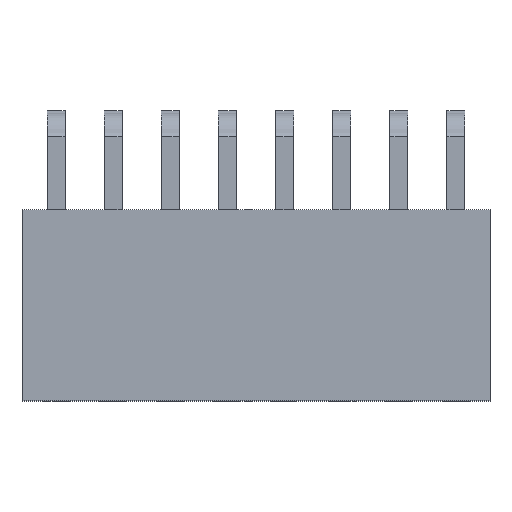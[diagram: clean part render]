
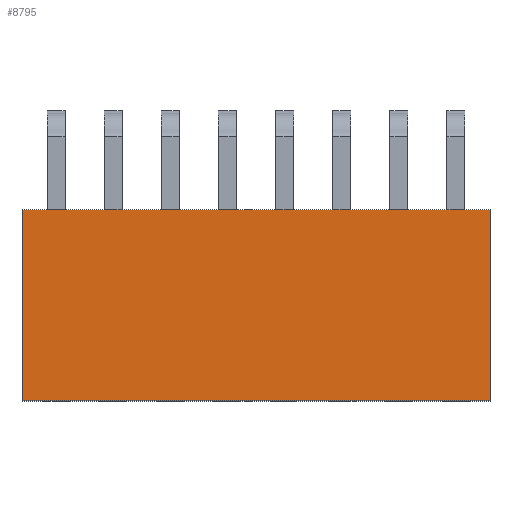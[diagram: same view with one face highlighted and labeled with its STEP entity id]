
A CAD part, top view. The second image highlights one B-rep face of the part: STEP entity #8795.
In plain terms, the highlighted planar face has unit normal (0, 0, 1).
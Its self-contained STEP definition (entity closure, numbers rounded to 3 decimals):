
#8126 = CARTESIAN_POINT ( 'NONE',  ( -1.52, -12.5, 5.28 ) ) ;
#8127 = VERTEX_POINT ( 'NONE', #8126 ) ;
#8134 = CARTESIAN_POINT ( 'NONE',  ( -1.52, -4., 5.28 ) ) ;
#8135 = VERTEX_POINT ( 'NONE', #8134 ) ;
#8136 = CARTESIAN_POINT ( 'NONE',  ( -1.52, -4., 5.28 ) ) ;
#8137 = DIRECTION ( 'NONE',  ( 0., -1., 0. ) ) ;
#8138 = VECTOR ( 'NONE', #8137, 1000. ) ;
#8139 = LINE ( 'NONE', #8136, #8138 ) ;
#8140 = EDGE_CURVE ( 'NONE', #8135, #8127, #8139, .T. ) ;
#8708 = CARTESIAN_POINT ( 'NONE',  ( 19.3, -12.5, 5.28 ) ) ;
#8709 = VERTEX_POINT ( 'NONE', #8708 ) ;
#8716 = CARTESIAN_POINT ( 'NONE',  ( -1.52, -12.5, 5.28 ) ) ;
#8717 = DIRECTION ( 'NONE',  ( 1., 0., 0. ) ) ;
#8718 = VECTOR ( 'NONE', #8717, 1000. ) ;
#8719 = LINE ( 'NONE', #8716, #8718 ) ;
#8720 = EDGE_CURVE ( 'NONE', #8127, #8709, #8719, .T. ) ;
#8739 = CARTESIAN_POINT ( 'NONE',  ( 19.3, -4., 5.28 ) ) ;
#8740 = VERTEX_POINT ( 'NONE', #8739 ) ;
#8747 = CARTESIAN_POINT ( 'NONE',  ( 19.3, -4., 5.28 ) ) ;
#8748 = DIRECTION ( 'NONE',  ( 0., 1., 0. ) ) ;
#8749 = VECTOR ( 'NONE', #8748, 1000. ) ;
#8750 = LINE ( 'NONE', #8747, #8749 ) ;
#8751 = EDGE_CURVE ( 'NONE', #8709, #8740, #8750, .T. ) ;
#8769 = CARTESIAN_POINT ( 'NONE',  ( -1.52, -4., 5.28 ) ) ;
#8770 = DIRECTION ( 'NONE',  ( -1., 0., 0. ) ) ;
#8771 = VECTOR ( 'NONE', #8770, 1000. ) ;
#8772 = LINE ( 'NONE', #8769, #8771 ) ;
#8773 = EDGE_CURVE ( 'NONE', #8740, #8135, #8772, .T. ) ;
#8784 = ORIENTED_EDGE ( 'NONE', *, *, #8140, .T. ) ;
#8785 = ORIENTED_EDGE ( 'NONE', *, *, #8720, .T. ) ;
#8786 = ORIENTED_EDGE ( 'NONE', *, *, #8751, .T. ) ;
#8787 = ORIENTED_EDGE ( 'NONE', *, *, #8773, .T. ) ;
#8788 = EDGE_LOOP ( 'NONE', ( #8784, #8785, #8786, #8787 ) ) ;
#8789 = FACE_OUTER_BOUND ( 'NONE', #8788, .T. ) ;
#8790 = CARTESIAN_POINT ( 'NONE',  ( 8.89, -5.83, 5.28 ) ) ;
#8791 = DIRECTION ( 'NONE',  ( 0., 0., 1. ) ) ;
#8792 = DIRECTION ( 'NONE',  ( 0., -1., 0. ) ) ;
#8793 = AXIS2_PLACEMENT_3D ( 'NONE', #8790, #8791, #8792 ) ;
#8794 = PLANE ( 'NONE', #8793 ) ;
#8795 = ADVANCED_FACE ( 'NONE', ( #8789 ), #8794, .T. ) ;
